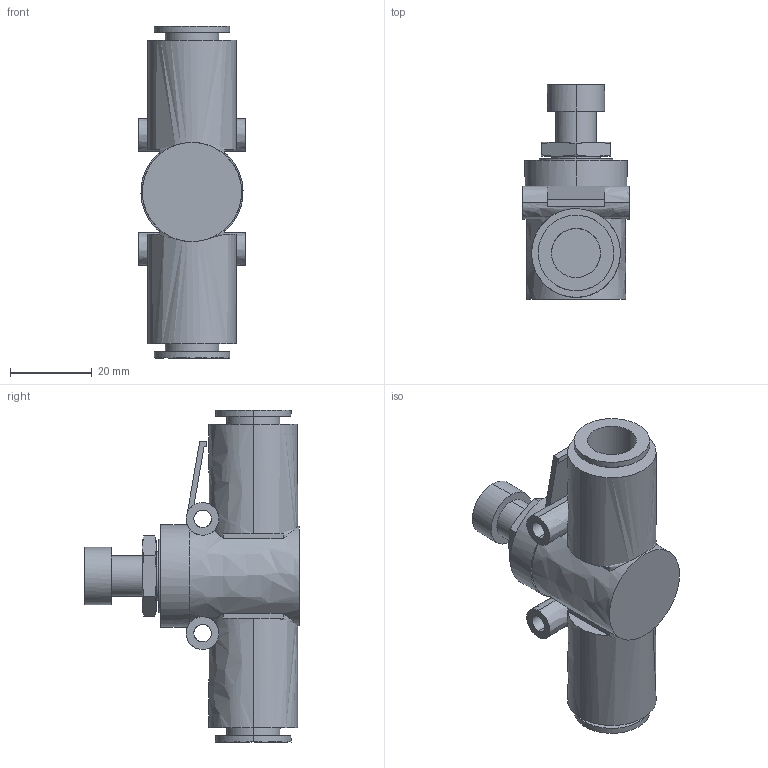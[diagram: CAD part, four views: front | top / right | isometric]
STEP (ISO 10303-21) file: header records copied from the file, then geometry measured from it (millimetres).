
FILE_DESCRIPTION (( 'STEP AP214' ), '1' );
FILE_NAME ('AS4002F-12.STEP', '2023-03-08T10:10:34', ( 'Windows User' ), ( 'P R C' ), 'SwSTEP 2.0', 'SolidWorks 2019', '' );
FILE_SCHEMA (( 'AUTOMOTIVE_DESIGN' ));
Length unit declared in the file: millimetre
Products named in the file (1): AS4002F-12
Bounding box: 26.2 x 52.6 x 81.3 mm (x, y, z)
Volume: 36012.3 mm3; surface area: 13175.2 mm2
Topology: 1 solids, 1 shells, 82 faces, 200 edges, 132 vertices
Faces by surface type: plane 42, bspline 40
Entity records: 4002 total; most frequent: CARTESIAN_POINT 2633, ORIENTED_EDGE 400, EDGE_CURVE 200, B_SPLINE_CURVE_WITH_KNOTS 150, VERTEX_POINT 132, EDGE_LOOP 98, DIRECTION 86, ADVANCED_FACE 82
